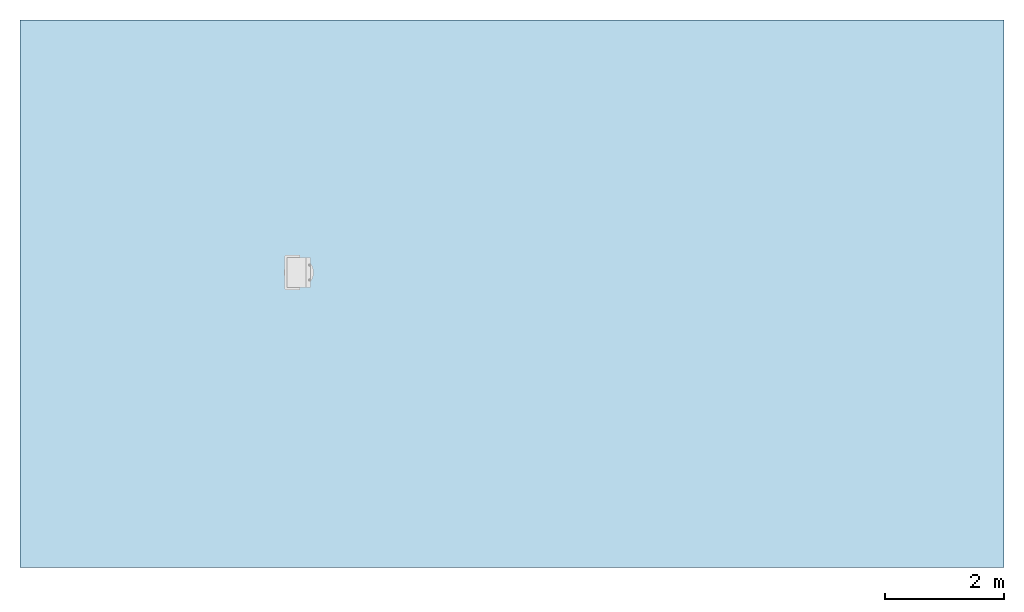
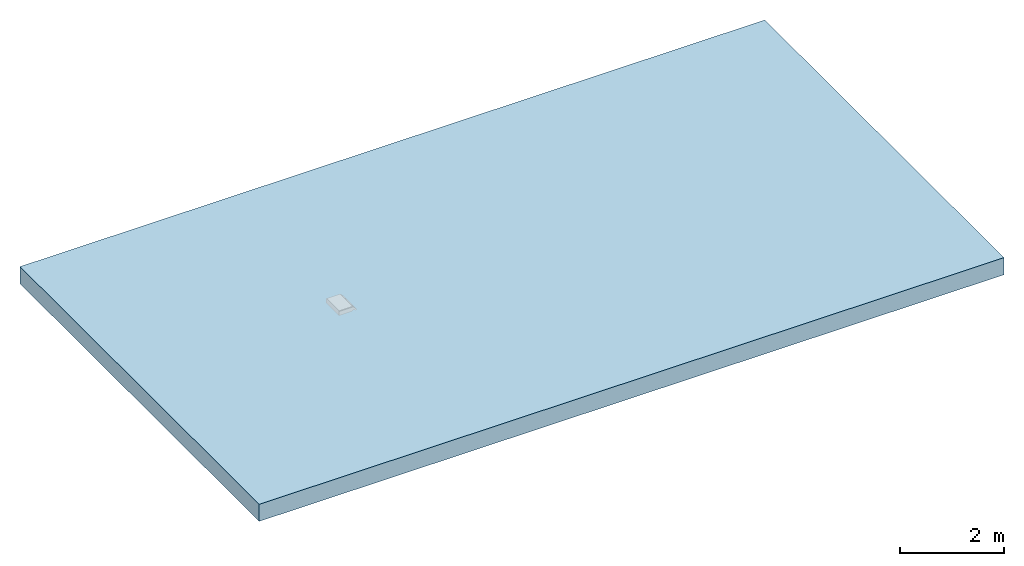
# One storey, incomplete: 1 slab, 2 openings.
"""IFC2X3 building model written with IfcOpenShell, lengths in millimetres."""

from ifc_helpers import new_model, entity, si_unit, converted_unit, direction, frame, frame_2d, origin, place, context, subcontext, project, spatial, rectangle, extrude, faceted_brep, material, layer, layer_set, layer_usage, element, save


model = new_model("IFC2X3")

# Units and contexts
model_context = context("Model", 3, precision=1e-06, world=origin(), true_north=direction((2.0, 6.12303176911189e-17, 1.0)))
context_of_model = context(None, 3, precision=1e-06, world=origin(), true_north=direction((2.0, 6.12303176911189e-17, 1.0)))
body_context = subcontext(model_context, "Body", "Model", "MODEL_VIEW")
ifc_project = project(units=[si_unit("LENGTHUNIT", "METRE", prefix="MILLI"), si_unit("AREAUNIT", "SQUARE_METRE", prefix="MILLI"), si_unit("VOLUMEUNIT", "CUBIC_METRE", prefix="MILLI"), converted_unit("PLANEANGLEUNIT", "DEGREE", entity("IfcRatioMeasure", 0.0174532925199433), si_unit("PLANEANGLEUNIT", "RADIAN"), dimensions=[0, 0, 0, 0, 0, 0, 0]), si_unit("TIMEUNIT", "SECOND")], contexts=[model_context, context_of_model])

# Site, building, storey
site_placement = place(None, origin())
site = spatial("IfcSite", under=ifc_project, at=site_placement, Name="Default", CompositionType="ELEMENT")
building_placement = place(site_placement, origin())
building = spatial("IfcBuilding", under=site, at=building_placement, CompositionType="ELEMENT")
storey_placement = place(building_placement, origin())
storey = spatial("IfcBuildingStorey", under=building, at=storey_placement, Name="Level 1", CompositionType="ELEMENT", Elevation=0.0)

# Slab, openings
ifc_material = material(Name="Plant")
ifc_layer = layer(ifc_material, 400.0)
ifc_layer_set = layer_set([ifc_layer], Name="Floor:Generic Floor - 400mm")
ifc_layer_usage = layer_usage(ifc_layer_set, "AXIS3", "POSITIVE", 0.0)
slab_placement = place(storey_placement, frame((-17967.0691536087, -3738.31688706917, -400.0)))
slab = element("IfcSlab", 1, at=slab_placement, inside=storey, material=ifc_layer_usage, Name="Floor:Generic Floor - 400mm", ObjectType="Floor:Generic Floor - 400mm", PredefinedType="FLOOR", context=body_context, shape_type="SweptSolid", body=[
    extrude(rectangle(XDim=9180.0, YDim=16500.0, at=frame_2d((0.0, 0.0), x_axis=(0.0, -1.0))), frame((8250.0, 4590.0, 400.0), z_axis=(0.0, 0.0, -1.0), x_axis=(-1.0, 0.0, 0.0)), (0.0, 0.0, 1.0), 400.0),
])
opening_1_placement = place(slab_placement, frame((8937.26080570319, 9349.90839007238, -6165.0)))
element("IfcOpeningElement", 2, at=opening_1_placement, cuts=slab, ObjectType="Opening", context=body_context, shape_type="Brep", body=[
    faceted_brep([(429.877288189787, 466.624622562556, 25.0), (446.482811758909, 447.899871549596, 25.0), (446.482811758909, 541.595272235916, 25.0), (411.482811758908, 541.595272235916, 25.0), (411.482811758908, 483.595272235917, 25.0), (429.877288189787, 116.565921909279, 25.0), (446.482811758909, 41.595272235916, 25.0), (446.482811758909, 135.29067292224, 25.0), (411.482811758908, 99.5952722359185, 25.0), (411.482811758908, 41.595272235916, 25.0), (56.4828117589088, 541.595272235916, 25.0), (91.4828117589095, 483.595272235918, 25.0), (91.4828117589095, 541.595272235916, 25.0), (56.4828117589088, 447.899871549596, 25.0), (73.0883353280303, 466.624622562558, 25.0), (56.4828117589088, 41.595272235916, 25.0), (91.4828117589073, 41.595272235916, 25.0), (91.4828117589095, 99.595272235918, 25.0), (56.4828117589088, 135.290672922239, 25.0), (73.0883353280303, 116.565921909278, 25.0), (56.4828117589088, 541.595272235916, 370.725125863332), (56.4828117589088, 541.595272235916, 445.0), (56.4828117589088, 41.595272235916, 445.0), (56.4828117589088, 41.595272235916, 370.725125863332), (11.994691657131, 362.950452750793, 40.0), (30.1245194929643, 175.618094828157, 40.0), (2.75739639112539, 267.518072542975, 40.0), (11.9927041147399, 220.24676594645, 40.0), (56.4828117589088, 447.899871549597, 40.0), (56.4828117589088, 135.290672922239, 40.0), (30.1267359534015, 407.576682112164, 40.0), (2.75817855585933, 315.680554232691, 40.0), (56.4828117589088, 41.595272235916, 365.0), (56.4828117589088, 541.595272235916, 365.0), (472.838887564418, 175.613862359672, 40.0), (500.207444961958, 267.509990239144, 40.0), (490.970931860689, 220.240091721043, 40.0), (446.482811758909, 135.290672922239, 40.0), (446.482811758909, 447.899871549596, 40.0), (500.208227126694, 315.67247192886, 40.0), (472.841104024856, 407.572449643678, 40.0), (490.97291940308, 362.943778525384, 40.0), (446.482811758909, 41.595272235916, 445.0), (446.482811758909, 541.595272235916, 445.0), (272.482811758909, 41.595272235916, 370.725125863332), (272.482811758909, 41.595272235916, 365.0), (91.4828117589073, 41.595272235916, 0.0), (411.482811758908, 41.595272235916, 0.0), (272.482811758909, 541.595272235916, 370.725125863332), (272.482811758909, 541.595272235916, 365.0), (411.482811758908, 541.595272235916, 0.0), (91.4828117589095, 541.595272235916, 0.0), (495.403052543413, 345.891135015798, 0.0), (477.786025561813, 397.595000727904, 0.0), (7.5625709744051, 345.891135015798, 0.0), (449.360278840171, 444.238610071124, 0.0), (53.6053446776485, 444.238610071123, 0.0), (1.59527223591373, 291.595272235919, 0.0), (91.4828117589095, 483.595272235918, 0.0), (411.482811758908, 483.595272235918, 0.0), (25.1795979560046, 397.595000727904, 0.0), (501.370351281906, 291.595272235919, 0.0), (477.786025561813, 185.595543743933, 0.0), (495.403052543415, 237.29940945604, 0.0), (25.1795979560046, 185.595543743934, 0.0), (91.4828117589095, 99.595272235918, 0.0), (411.48281175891, 99.5952722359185, 0.0), (53.6053446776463, 138.951934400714, 0.0), (449.360278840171, 138.951934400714, 0.0), (7.5625709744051, 237.29940945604, 0.0), (15.1642952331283, 566.771653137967, 365.0), (14.4828117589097, 561.595272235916, 365.0), (34.4828117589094, 581.595272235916, 365.0), (20.3406761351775, 575.737407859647, 365.0), (17.1623036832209, 571.595272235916, 365.0), (14.4828117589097, 21.5952722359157, 365.0), (15.1642952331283, 16.4188913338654, 365.0), (17.1623036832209, 11.5952722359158, 365.0), (34.4828117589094, 1.5952722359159, 365.0), (24.4828117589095, 4.27476416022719, 365.0), (20.3406761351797, 7.45313661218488, 365.0), (24.4828117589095, 578.915780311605, 365.0), (272.482811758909, 581.595272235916, 365.0), (29.3064308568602, 2.27675571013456, 365.0), (272.482811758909, 1.59527223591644, 365.0), (29.306430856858, 580.913788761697, 365.0), (272.482811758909, 581.595272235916, 370.725125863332), (34.4828117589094, 581.595272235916, 370.725125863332), (14.4828117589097, 561.595272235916, 370.725125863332), (14.4828117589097, 21.5952722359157, 370.725125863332), (272.482811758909, 1.59527223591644, 370.725125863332), (29.3064308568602, 2.27675571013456, 370.725125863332), (24.4828117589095, 4.27476416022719, 370.725125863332), (34.4828117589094, 1.5952722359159, 370.725125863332), (24.4828117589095, 578.915780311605, 370.725125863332), (29.306430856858, 580.913788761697, 370.725125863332), (17.1623036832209, 571.595272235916, 370.725125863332), (20.3406761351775, 575.737407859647, 370.725125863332), (15.1642952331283, 566.771653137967, 370.725125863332), (20.3406761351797, 7.45313661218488, 370.725125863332), (17.1623036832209, 11.5952722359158, 370.725125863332), (15.1642952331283, 16.4188913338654, 370.725125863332)], [[[0, 1, 2]], [[2, 3, 4]], [[0, 2, 4]], [[5, 6, 7]], [[5, 8, 6]], [[9, 6, 8]], [[10, 11, 12]], [[10, 13, 14]], [[11, 10, 14]], [[15, 16, 17]], [[18, 15, 19]], [[17, 19, 15]], [[20, 21, 22]], [[22, 23, 20]], [[24, 25, 26]], [[25, 27, 26]], [[28, 29, 25]], [[24, 30, 28]], [[24, 26, 31]], [[28, 25, 24]], [[32, 28, 33]], [[10, 33, 28]], [[15, 29, 32]], [[28, 32, 29]], [[28, 13, 10]], [[29, 15, 18]], [[34, 35, 36]], [[34, 37, 38]], [[39, 35, 34]], [[40, 41, 39]], [[40, 34, 38]], [[39, 34, 40]], [[42, 22, 21]], [[21, 43, 42]], [[23, 22, 44]], [[45, 44, 42]], [[22, 42, 44]], [[6, 45, 42]], [[45, 16, 32]], [[32, 16, 15]], [[9, 46, 16]], [[46, 9, 47]], [[45, 6, 9]], [[45, 9, 16]], [[43, 37, 42]], [[6, 42, 37]], [[2, 38, 43]], [[37, 43, 38]], [[37, 7, 6]], [[38, 2, 1]], [[48, 49, 43]], [[2, 43, 49]], [[21, 48, 43]], [[21, 20, 48]], [[33, 12, 49]], [[49, 3, 2]], [[12, 50, 3]], [[50, 12, 51]], [[33, 10, 12]], [[49, 12, 3]], [[52, 53, 54]], [[55, 56, 53]], [[54, 57, 52]], [[51, 58, 50]], [[59, 50, 58]], [[58, 55, 59]], [[55, 58, 56]], [[56, 60, 53]], [[60, 54, 53]], [[57, 61, 52]], [[62, 63, 64]], [[65, 47, 66]], [[67, 68, 62]], [[68, 67, 66]], [[69, 64, 63]], [[69, 61, 57]], [[64, 67, 62]], [[47, 65, 46]], [[67, 65, 66]], [[63, 61, 69]], [[8, 66, 47]], [[47, 9, 8]], [[17, 46, 65]], [[46, 17, 16]], [[25, 29, 18]], [[27, 25, 64]], [[18, 64, 25]], [[26, 27, 69]], [[19, 17, 65]], [[67, 19, 65]], [[19, 67, 18]], [[67, 64, 18]], [[64, 69, 27]], [[69, 57, 26]], [[31, 54, 24]], [[24, 60, 30]], [[30, 13, 28]], [[56, 14, 13]], [[30, 60, 13]], [[54, 60, 24]], [[31, 57, 54]], [[56, 58, 14]], [[13, 60, 56]], [[58, 11, 14]], [[26, 57, 31]], [[12, 58, 51]], [[58, 12, 11]], [[3, 50, 59]], [[59, 4, 3]], [[40, 38, 1]], [[41, 40, 53]], [[1, 53, 40]], [[39, 41, 52]], [[0, 4, 59]], [[55, 0, 59]], [[0, 55, 1]], [[55, 53, 1]], [[53, 52, 41]], [[52, 61, 39]], [[34, 36, 62]], [[36, 35, 63]], [[34, 7, 37]], [[68, 5, 7]], [[34, 62, 7]], [[63, 35, 61]], [[62, 36, 63]], [[68, 66, 5]], [[7, 62, 68]], [[66, 8, 5]], [[39, 61, 35]], [[70, 71, 72]], [[73, 74, 72]], [[72, 74, 70]], [[71, 75, 33]], [[76, 77, 78]], [[79, 78, 80]], [[80, 78, 77]], [[75, 76, 78]], [[72, 81, 73]], [[71, 33, 72]], [[49, 82, 33]], [[72, 33, 82]], [[75, 32, 33]], [[78, 79, 83]], [[84, 45, 32]], [[78, 84, 32]], [[75, 78, 32]], [[81, 72, 85]], [[20, 86, 48]], [[87, 20, 88]], [[86, 20, 87]], [[89, 20, 23]], [[23, 44, 90]], [[91, 92, 93]], [[93, 89, 23]], [[90, 93, 23]], [[87, 94, 95]], [[87, 96, 97]], [[98, 87, 88]], [[98, 96, 87]], [[88, 20, 89]], [[99, 93, 92]], [[93, 99, 100]], [[100, 101, 93]], [[93, 101, 89]], [[94, 87, 97]], [[98, 88, 70]], [[96, 98, 74]], [[70, 88, 71]], [[98, 70, 74]], [[96, 74, 73]], [[73, 97, 96]], [[94, 97, 81]], [[95, 94, 85]], [[85, 94, 81]], [[95, 85, 72]], [[95, 72, 87]], [[73, 81, 97]], [[89, 75, 71]], [[71, 88, 89]], [[91, 93, 83]], [[92, 91, 79]], [[83, 93, 78]], [[91, 83, 79]], [[92, 79, 80]], [[80, 99, 92]], [[100, 99, 77]], [[101, 100, 76]], [[76, 100, 77]], [[101, 76, 75]], [[101, 75, 89]], [[80, 77, 99]], [[90, 84, 78]], [[78, 93, 90]], [[44, 45, 84]], [[84, 90, 44]], [[48, 82, 49]], [[82, 48, 86]], [[86, 72, 82]], [[72, 86, 87]]]),
])
opening_2_placement = place(slab_placement, frame((8937.26080570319, 9349.90839007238, -6165.0)))
element("IfcOpeningElement", 3, at=opening_2_placement, cuts=slab, ObjectType="Opening", context=body_context, shape_type="Brep", body=[
    faceted_brep([(1.07216620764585, 500.0006314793, 520.0), (1.07216620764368, 1.41324385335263, 885.0), (1.07216620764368, 1.41324385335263, 520.0), (1.07216620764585, 501.413243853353, 520.0), (1.07216620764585, 501.413243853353, 885.0), (322.320493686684, 500.2270483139, 520.0), (322.320493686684, 501.413243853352, 885.0), (322.320493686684, 501.413243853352, 520.0), (322.320493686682, 1.41324385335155, 520.0), (322.320493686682, 1.41324385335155, 885.0), (0.0, 499.999875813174, 520.0), (0.352401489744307, 0.0, 520.0), (0.352401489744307, 0.0, 0.0), (0.0, 499.999875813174, 0.0), (322.66101438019, 340.113462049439, 57.0653540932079), (322.66101438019, 340.113462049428, 520.0), (322.54816570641, 500.227208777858, 520.0), (322.900567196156, 0.227332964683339, 0.0), (322.548165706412, 500.227208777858, 0.0), (322.78787894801, 160.113462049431, 57.0653540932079), (322.900567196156, 0.227332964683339, 520.0), (322.787878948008, 160.113462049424, 520.0), (457.135480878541, 340.113462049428, 520.0), (457.135480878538, 160.11346204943, 520.0), (457.135480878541, 340.113462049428, 57.0653540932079), (457.135480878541, 160.11346204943, 57.0653540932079)], [[[0, 1, 2]], [[3, 4, 0]], [[1, 0, 4]], [[5, 6, 7]], [[8, 9, 5]], [[6, 5, 9]], [[6, 1, 4]], [[1, 6, 9]], [[7, 4, 3]], [[4, 7, 6]], [[5, 3, 0]], [[3, 5, 7]], [[9, 2, 1]], [[2, 9, 8]], [[10, 11, 12]], [[12, 13, 10]], [[14, 15, 16]], [[17, 14, 18]], [[16, 18, 14]], [[19, 20, 21]], [[14, 17, 19]], [[20, 19, 17]], [[8, 20, 2]], [[11, 2, 20]], [[10, 2, 11]], [[2, 10, 0]], [[21, 8, 15]], [[8, 21, 20]], [[22, 23, 21]], [[21, 15, 22]], [[5, 16, 15]], [[5, 15, 8]], [[0, 10, 13]], [[18, 0, 13]], [[18, 16, 5]], [[0, 18, 5]], [[18, 13, 12]], [[12, 17, 18]], [[17, 12, 11]], [[11, 20, 17]], [[23, 22, 24]], [[24, 25, 23]], [[24, 15, 14]], [[15, 24, 22]], [[24, 14, 19]], [[19, 25, 24]], [[25, 19, 21]], [[21, 23, 25]]]),
])

save(model, "model.ifc")
